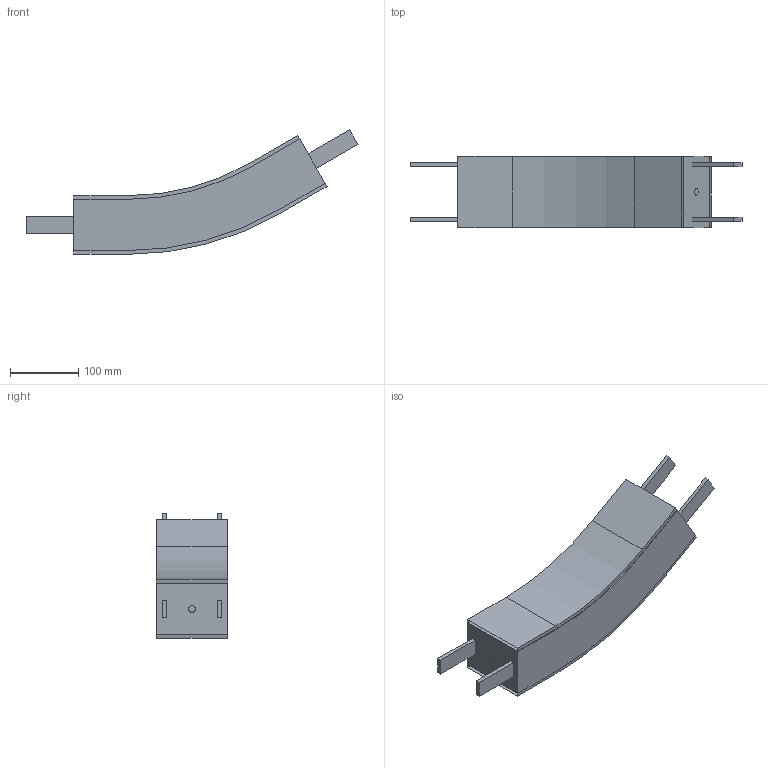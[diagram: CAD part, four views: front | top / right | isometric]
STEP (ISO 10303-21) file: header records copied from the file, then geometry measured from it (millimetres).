
FILE_DESCRIPTION(/* description */ ('Vertikaler Gleitbogen, 30°, R400'),/* implementation_level */ '2;1');
FILE_NAME(/* name */ 'T:\vdz0\Step Daten Website\modulflex FH-System\Vertikale Gleitbögen\FHBV 30R400_44029.stp',/* time_stamp */ '2024-09-03T14:30:32+02:00',/* author */ ('lzb0'),/* organization */ ('modular automation GmbH'),/* preprocessor_version */ 'ST-DEVELOPER v18.1',/* originating_system */ 'Autodesk Inventor 2021',/* authorisation */ '');
FILE_SCHEMA (('AUTOMOTIVE_DESIGN { 1 0 10303 214 3 1 1 }'));
Length unit declared in the file: millimetre
Products named in the file (1): FHBV 30R400
Bounding box: 486.15 x 105 x 182.42 mm (x, y, z)
Volume: 2993336.1 mm3; surface area: 345633.3 mm2
Topology: 5 solids, 9 shells, 52 faces, 126 edges, 84 vertices
Faces by surface type: plane 44, cylinder 8
Full cylindrical faces by diameter (mm): 10 x2
Entity records: 1598 total; most frequent: CARTESIAN_POINT 270, DIRECTION 250, ORIENTED_EDGE 232, EDGE_CURVE 126, LINE 110, VECTOR 110, VERTEX_POINT 84, AXIS2_PLACEMENT_3D 70
